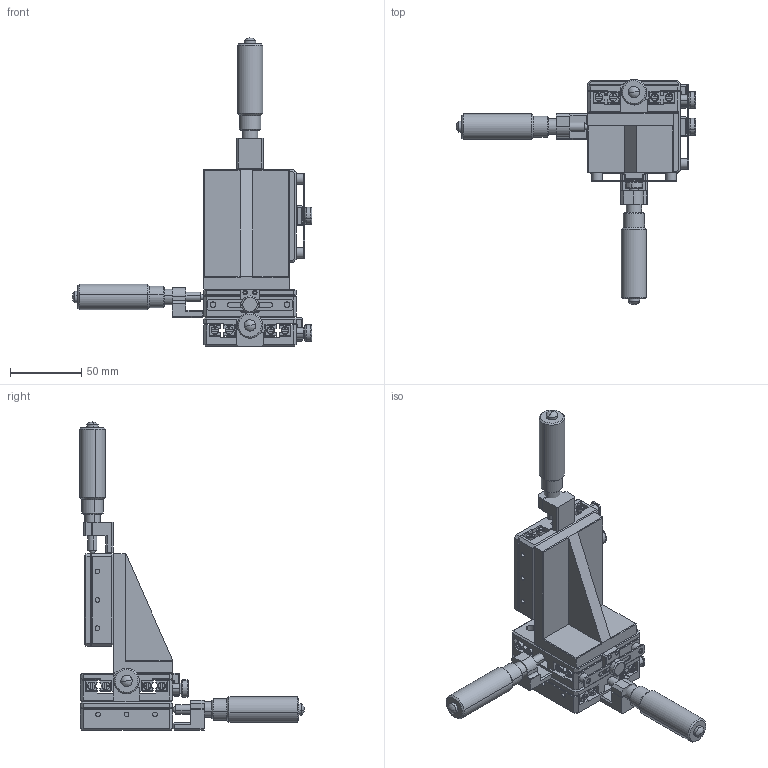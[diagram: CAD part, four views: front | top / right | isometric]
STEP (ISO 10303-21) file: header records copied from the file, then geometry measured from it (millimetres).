
FILE_DESCRIPTION (( 'STEP AP203' ), '1' );
FILE_NAME ('SH-305H.STEP', '2020-09-30T01:22:59', ( 'PC' ), ( 'Microsoft' ), 'SwSTEP 2.0', 'SolidWorks 2015', '' );
FILE_SCHEMA (( 'CONFIG_CONTROL_DESIGN' ));
Length unit declared in the file: millimetre
Products named in the file (11): SP110-13-65H癹弇忒謫; 25-峚煦芛; 錨璃1; SP110-13-65H痄雄啣; SP110-25-65H - 萵掛; SP110-25-65H嘐隅啣; SH-305H; SP110-25-65H坶踡輸; SP110-25-65H峚煦芛釱; SP110-25-65H癹弇え; 絳寢V3-60
Assembly tree (25 placements, depth 3):
  SH-305H
    SP110-13-65H痄雄啣
    SP110-25-65H嘐隅啣
    SP110-25-65H坶踡輸
    SP110-25-65H峚煦芛釱
    SP110-25-65H癹弇え
    絳寢V3-60  x4
    SP110-13-65H癹弇忒謫
    25-峚煦芛
    錨璃1
    SP110-25-65H - 萵掛  x2
      SP110-13-65H痄雄啣
      SP110-25-65H嘐隅啣
      SP110-25-65H坶踡輸
      SP110-25-65H峚煦芛釱
      SP110-25-65H癹弇え
      絳寢V3-60
      SP110-13-65H癹弇忒謫
      25-峚煦芛
Bounding box: 168.5 x 157.99 x 216.5 mm (x, y, z)
Volume: 352313.4 mm3; surface area: 150888.9 mm2
Topology: 34 solids, 34 shells, 1964 faces, 4888 edges, 3076 vertices
Faces by surface type: plane 1265, cylinder 624, cone 48, bspline 18, sphere 9
Entity records: 14432 total; most frequent: CARTESIAN_POINT 2286, DIRECTION 2281, ORIENTED_EDGE 2114, EDGE_CURVE 1057, AXIS2_PLACEMENT_3D 782, LINE 717, VECTOR 717, VERTEX_POINT 667
